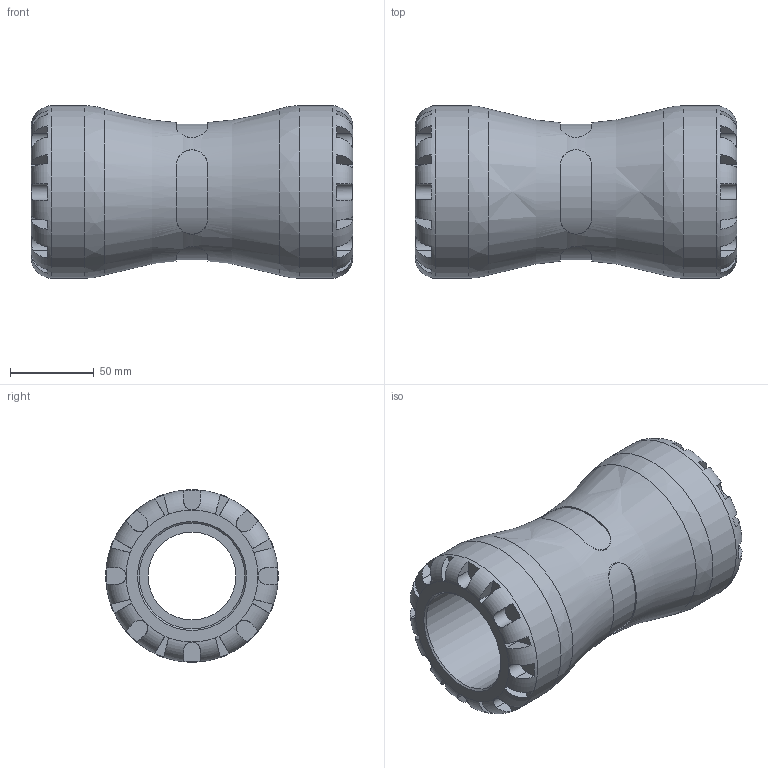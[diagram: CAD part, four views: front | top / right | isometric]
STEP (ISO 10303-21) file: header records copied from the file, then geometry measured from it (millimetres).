
FILE_DESCRIPTION(/* description */ ('PLASSON G-PLASS COUPLING 63X63'),/* implementation_level */ '2;1');
FILE_NAME(/* name */ 'C:\Dropbox\KIMPROJECTS-Inventor 2019\99-16-3568-Processing\S1\150100\stp\150100063.stp',/* time_stamp */ '2023-10-17T19:13:30+03:00',/* author */ ('KIM'),/* organization */ (''),/* preprocessor_version */ 'ST-DEVELOPER v17.2',/* originating_system */ 'Autodesk Inventor 2019',/* authorisation */ '');
FILE_SCHEMA (('AUTOMOTIVE_DESIGN { 1 0 10303 214 3 1 1 }'));
Length unit declared in the file: millimetre
Products named in the file (1): 150100063
Bounding box: 192 x 103 x 103 mm (x, y, z)
Volume: 725987.1 mm3; surface area: 110241.8 mm2
Topology: 1 solids, 1 shells, 164 faces, 431 edges, 274 vertices
Faces by surface type: plane 108, cylinder 49, torus 3, cone 2, bspline 2
Full cylindrical faces by diameter (mm): 52.5 x1, 63 x2, 103 x2
Entity records: 6532 total; most frequent: CARTESIAN_POINT 2494, ORIENTED_EDGE 862, DIRECTION 813, EDGE_CURVE 431, AXIS2_PLACEMENT_3D 331, VERTEX_POINT 274, EDGE_LOOP 171, CIRCLE 168
